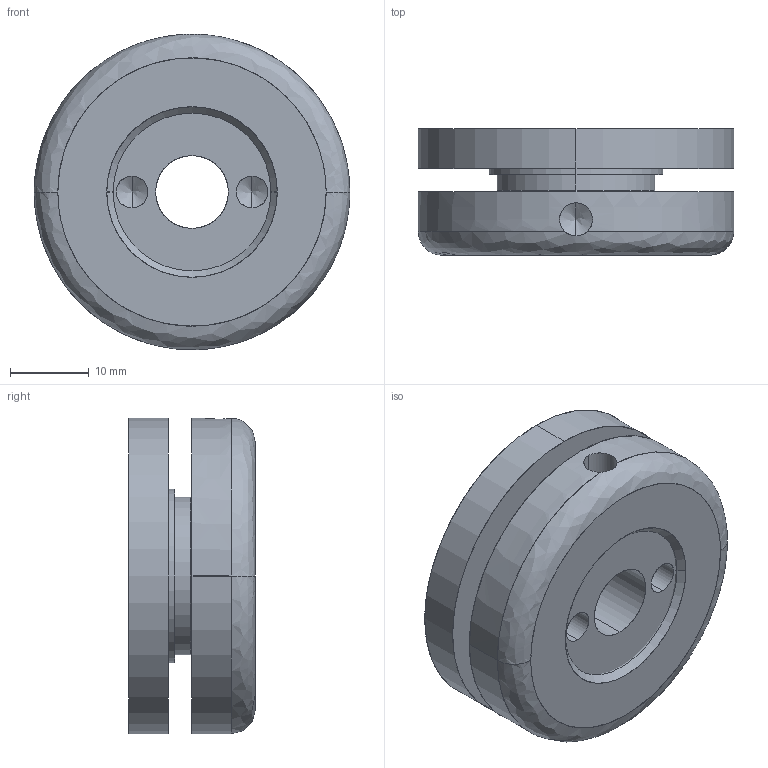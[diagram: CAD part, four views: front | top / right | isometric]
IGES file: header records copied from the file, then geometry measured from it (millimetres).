
Start section: SolidWorks IGES file using analytic representation for surfaces
Global section: file name: R:\Inventor\Kundmodeller Solidworks\Chuckar\041J000004 Saw blade holder CCW Ø22 mm.IGS; native system: SolidWorks 2008; preprocessor: SolidWorks 2008; author: Johan; date: 090903.153726; units: millimetre
Bounding box: 40 x 16 x 40 mm (x, y, z)
Surface area: 7557.5 mm2 (no closed solid volume)
Topology: 0 solids, 0 shells, 42 faces, 772 edges, 766 vertices
Faces by surface type: revolution 34, bspline 8
